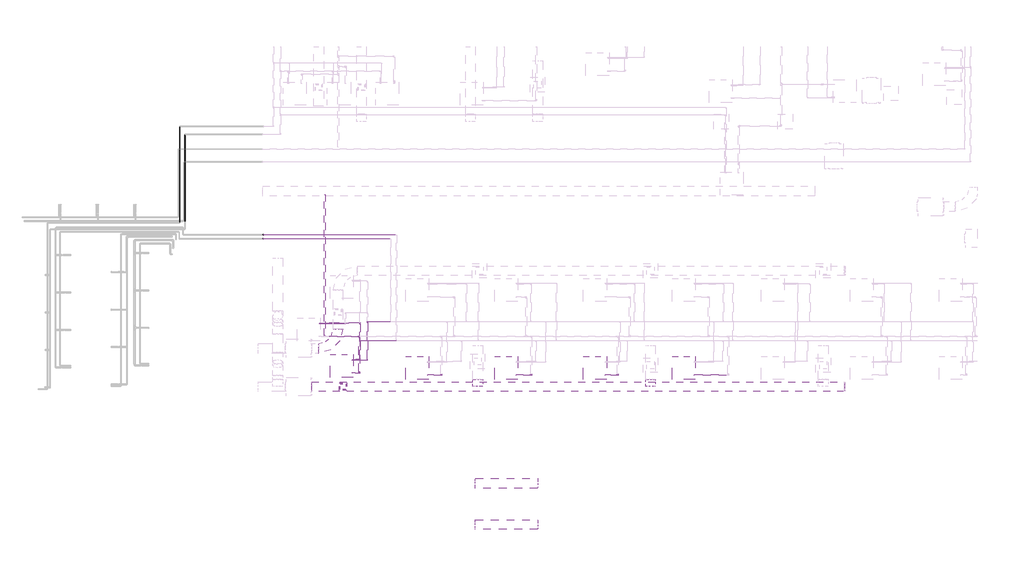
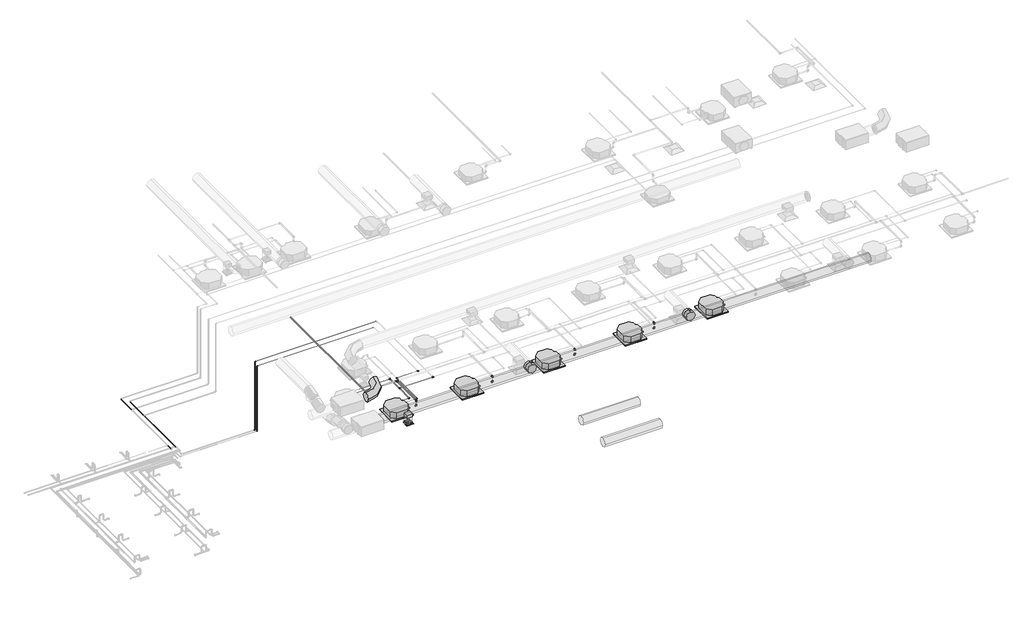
# One storey, part 6 of 22: 29 pipe fittings, 27 pipe segments, 5 proxies, 4 duct fittings, 4 duct segments, 1 air terminal.
"""IFC4 building model written with IfcOpenShell, lengths in millimetres."""

from ifc_helpers import new_model, si_unit, point, frame, frame_2d, origin, place, context, project, spatial, polyline, circle_curve, trimmed, segment, composite_curve, outline, extrude, transform, mapped, element, save
from components import sdq3535_a75e83f7, mechanical_equipment_53173f38, duct_fitting_570af4ff, duct_fitting_2eb95573, duct_fitting_2_d_33ab650d, pipe_fitting_062ba67a, pipe_fitting_144f4440, pipe_fitting_14eb6376, pipe_fitting_103655aa, pipe_fitting_d8987a17, pipe_fitting_753a0326, pipe_fitting_c900cfc2, pipe_fitting_0e110a5f, pipe_fitting_afe73776, pipe_fitting_09966660, pipe_fitting_501e5992, pipe_fitting_59d1f3e3, pipe_fitting_648138cd, pipe_fitting_da16c1b3, pipe_fitting_af483176, pipe_fitting_5a6d96d3

model = new_model("IFC4")

# Units and contexts
model_context = context("Model", 3, world=origin())
ifc_project = project(units=[si_unit("LENGTHUNIT", "METRE", prefix="MILLI")], contexts=[model_context])

# Site, building, storey
site = spatial("IfcSite", under=ifc_project)
building = spatial("IfcBuilding", under=site)
storey = spatial("IfcBuildingStorey", under=building, Name="Nível 2", Elevation=3880.0)

# Air terminal
placement = place(None, origin())
sdq3535_shape = sdq3535_a75e83f7(model_context)
element("IfcAirTerminal", 1, ObjectType="11 - Difusor Quadrado : SDQ3535", at=placement, inside=storey, context=model_context, shape_type="MappedRepresentation", body=[
    mapped(sdq3535_shape, transform((483.5312703, -8763.8997628, 6880.0), x_axis=(0.0, -1.0, 0.0), y_axis=(1.0, 0.0, 0.0), z_axis=(0.0, 0.0, 1.0))),
])

# Proxies
mechanical_equipment_shape = mechanical_equipment_53173f38(model_context)
element("IfcBuildingElementProxy", 2, Name="Midea_VRF_Indoor_4-way Cassette_MI-90(100,112,140)Q4_DHN1-D (2nd DC) : MI2-140Q4DHN1", ObjectType="Midea_VRF_Indoor_4-way Cassette_MI-90(100,112,140)Q4_DHN1-D (2nd DC) : MI2-140Q4DHN1", at=placement, inside=storey, context=model_context, shape_type="MappedRepresentation", body=[
    mapped(mechanical_equipment_shape, transform((434.0558808, -7921.9200274, 6880.0), x_axis=(1.0, 0.0, 0.0), y_axis=(0.0, 1.0, 0.0), z_axis=(0.0, 0.0, 1.0))),
])
element("IfcBuildingElementProxy", 3, Name="Midea_VRF_Indoor_4-way Cassette_MI-90(100,112,140)Q4_DHN1-D (2nd DC) : MI2-140Q4DHN1", ObjectType="Midea_VRF_Indoor_4-way Cassette_MI-90(100,112,140)Q4_DHN1-D (2nd DC) : MI2-140Q4DHN1", at=placement, inside=storey, context=model_context, shape_type="MappedRepresentation", body=[
    mapped(mechanical_equipment_shape, transform((14503.708361, -8001.9200274, 6880.0), x_axis=(1.0, 0.0, 0.0), y_axis=(0.0, 1.0, 0.0), z_axis=(0.0, 0.0, 1.0))),
])
element("IfcBuildingElementProxy", 4, Name="Midea_VRF_Indoor_4-way Cassette_MI-90(100,112,140)Q4_DHN1-D (2nd DC) : MI2-140Q4DHN1", ObjectType="Midea_VRF_Indoor_4-way Cassette_MI-90(100,112,140)Q4_DHN1-D (2nd DC) : MI2-140Q4DHN1", at=placement, inside=storey, context=model_context, shape_type="MappedRepresentation", body=[
    mapped(mechanical_equipment_shape, transform((10849.4883894, -8001.9200274, 6880.0), x_axis=(1.0, 0.0, 0.0), y_axis=(0.0, 1.0, 0.0), z_axis=(0.0, 0.0, 1.0))),
])
element("IfcBuildingElementProxy", 5, Name="Midea_VRF_Indoor_4-way Cassette_MI-90(100,112,140)Q4_DHN1-D (2nd DC) : MI2-140Q4DHN1", ObjectType="Midea_VRF_Indoor_4-way Cassette_MI-90(100,112,140)Q4_DHN1-D (2nd DC) : MI2-140Q4DHN1", at=placement, inside=storey, context=model_context, shape_type="MappedRepresentation", body=[
    mapped(mechanical_equipment_shape, transform((7195.2684179, -8001.9200274, 6880.0), x_axis=(1.0, 0.0, 0.0), y_axis=(0.0, 1.0, 0.0), z_axis=(0.0, 0.0, 1.0))),
])
element("IfcBuildingElementProxy", 6, Name="Midea_VRF_Indoor_4-way Cassette_MI-90(100,112,140)Q4_DHN1-D (2nd DC) : MI2-140Q4DHN1", ObjectType="Midea_VRF_Indoor_4-way Cassette_MI-90(100,112,140)Q4_DHN1-D (2nd DC) : MI2-140Q4DHN1", at=placement, inside=storey, context=model_context, shape_type="MappedRepresentation", body=[
    mapped(mechanical_equipment_shape, transform((3541.0484463, -8001.9200274, 6880.0), x_axis=(1.0, 0.0, 0.0), y_axis=(0.0, 1.0, 0.0), z_axis=(0.0, 0.0, 1.0))),
])

# Duct fittings
duct_fitting_shape = duct_fitting_570af4ff(model_context)
element("IfcDuctFitting", 7, ObjectType="M_Encaixe de duto retangular : Padrão", at=placement, inside=storey, context=model_context, shape_type="MappedRepresentation", body=[
    mapped(duct_fitting_shape, transform((483.5312703, -8763.8997628, 7301.0), x_axis=(0.0, 0.0, -1.0), y_axis=(-1.0, 0.0, 0.0), z_axis=(0.0, 1.0, 0.0))),
])
duct_fitting_2_shape = duct_fitting_2eb95573(model_context)
element("IfcDuctFitting", 8, ObjectType="M_Encaixe de duto redondo : Padrão", at=placement, inside=storey, context=model_context, shape_type="MappedRepresentation", body=[
    mapped(duct_fitting_2_shape, transform((6026.054533, -8563.8997628, 7501.0), x_axis=(0.0, 1.0, 0.0), y_axis=(1.0, 0.0, 0.0), z_axis=(0.0, 0.0, -1.0))),
])
element("IfcDuctFitting", 9, ObjectType="M_Encaixe de duto redondo : Padrão", at=placement, inside=storey, context=model_context, shape_type="MappedRepresentation", body=[
    mapped(duct_fitting_2_shape, transform((13129.4277224, -8563.8997628, 7501.0), x_axis=(0.0, 1.0, 0.0), y_axis=(1.0, 0.0, 0.0), z_axis=(0.0, 0.0, -1.0))),
])
duct_fitting_2_d_shape = duct_fitting_2_d_33ab650d(model_context)
element("IfcDuctFitting", 10, ObjectType="M_Cotovelo redondo : 2 D", at=placement, inside=storey, context=model_context, shape_type="MappedRepresentation", body=[
    mapped(duct_fitting_2_d_shape, transform((283.5312703, -7194.5831069, 7501.0), x_axis=(1.0, 0.0, 0.0), y_axis=(0.0, 1.0, 0.0), z_axis=(0.0, 0.0, 1.0))),
])

# Duct segments
element("IfcDuctSegment", 11, ObjectType="Torneiras / Raio curto", at=placement, inside=storey, context=model_context, shape_type="SweptSolid", body=[
    extrude(outline(composite_curve([segment(trimmed(circle_curve(frame_2d((-8763.8997628, 7501.0)), 200.0), [point((-8963.8997628, 7501.0))], [point((-8763.8997628, 7701.0))], False, "CARTESIAN"), True, "CONTINUOUS"), segment(trimmed(circle_curve(frame_2d((-8763.8997628, 7501.0)), 200.0), [point((-8763.8997628, 7701.0))], [point((-8563.8997628, 7501.0))], False, "CARTESIAN"), True, "CONTINUOUS"), segment(trimmed(circle_curve(frame_2d((-8763.8997628, 7501.0)), 200.0), [point((-8563.8997628, 7501.0))], [point((-8763.8997628, 7301.0))], False, "CARTESIAN"), True, "CONTINUOUS"), segment(trimmed(circle_curve(frame_2d((-8763.8997628, 7501.0)), 200.0), [point((-8763.8997628, 7301.0))], [point((-8963.8997628, 7501.0))], False, "CARTESIAN"), True, "CONTINUOUS")], self_intersect=False)), frame((-796.4687297, 0.0, 0.0), z_axis=(1.0, 0.0, 0.0), x_axis=(0.0, 1.0, 0.0)), (0.0, 0.0, 1.0), 21900.0),
])
element("IfcDuctSegment", 12, ObjectType="Raios cotovelos / torneiras", at=placement, inside=storey, context=model_context, shape_type="SweptSolid", body=[
    extrude(outline(polyline([(596.0312703, -8876.3997628), (371.0312703, -8876.3997628), (371.0312703, -8651.3997628), (596.0312703, -8651.3997628), (596.0312703, -8876.3997628)])), frame((0.0, 0.0, 6885.0), z_axis=(0.0, 0.0, 1.0), x_axis=(1.0, 0.0, 0.0)), (0.0, 0.0, 1.0), 314.4),
])
element("IfcDuctSegment", 13, ObjectType="Torneiras / Raio curto", at=placement, inside=storey, context=model_context, shape_type="SweptSolid", body=[
    extrude(outline(composite_curve([segment(trimmed(circle_curve(frame_2d((-12740.7801783, 7501.0)), 200.0), [point((-12940.7801783, 7501.0))], [point((-12740.7801783, 7701.0))], False, "CARTESIAN"), True, "CONTINUOUS"), segment(trimmed(circle_curve(frame_2d((-12740.7801783, 7501.0)), 200.0), [point((-12740.7801783, 7701.0))], [point((-12540.7801783, 7501.0))], False, "CARTESIAN"), True, "CONTINUOUS"), segment(trimmed(circle_curve(frame_2d((-12740.7801783, 7501.0)), 200.0), [point((-12540.7801783, 7501.0))], [point((-12740.7801783, 7301.0))], False, "CARTESIAN"), True, "CONTINUOUS"), segment(trimmed(circle_curve(frame_2d((-12740.7801783, 7501.0)), 200.0), [point((-12740.7801783, 7301.0))], [point((-12940.7801783, 7501.0))], False, "CARTESIAN"), True, "CONTINUOUS")], self_intersect=False)), frame((5931.6274727, 0.0, 0.0), z_axis=(1.0, 0.0, 0.0), x_axis=(0.0, 1.0, 0.0)), (0.0, 0.0, 1.0), 2558.4767162),
])
element("IfcDuctSegment", 14, ObjectType="Torneiras / Raio curto", at=placement, inside=storey, context=model_context, shape_type="SweptSolid", body=[
    extrude(outline(composite_curve([segment(trimmed(circle_curve(frame_2d((-14440.7801783, 7501.0)), 200.0), [point((-14640.7801783, 7501.0))], [point((-14440.7801783, 7701.0))], False, "CARTESIAN"), True, "CONTINUOUS"), segment(trimmed(circle_curve(frame_2d((-14440.7801783, 7501.0)), 200.0), [point((-14440.7801783, 7701.0))], [point((-14240.7801783, 7501.0))], False, "CARTESIAN"), True, "CONTINUOUS"), segment(trimmed(circle_curve(frame_2d((-14440.7801783, 7501.0)), 200.0), [point((-14240.7801783, 7501.0))], [point((-14440.7801783, 7301.0))], False, "CARTESIAN"), True, "CONTINUOUS"), segment(trimmed(circle_curve(frame_2d((-14440.7801783, 7501.0)), 200.0), [point((-14440.7801783, 7301.0))], [point((-14640.7801783, 7501.0))], False, "CARTESIAN"), True, "CONTINUOUS")], self_intersect=False)), frame((5931.6274727, 0.0, 0.0), z_axis=(1.0, 0.0, 0.0), x_axis=(0.0, 1.0, 0.0)), (0.0, 0.0, 1.0), 2558.4767162),
])

# Pipe fittings
pipe_fitting_shape = pipe_fitting_062ba67a(model_context)
element("IfcPipeFitting", 15, ObjectType="Cotovelo - PVC - CW : Padrão", at=placement, inside=storey, context=model_context, shape_type="MappedRepresentation", body=[
    mapped(pipe_fitting_shape, transform((11774.4883894, -8286.9200274, 7132.3), x_axis=(0.999999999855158, 0.0, -1.70201065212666e-05), y_axis=(1.70201065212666e-05, 0.0, 0.999999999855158), z_axis=(0.0, -1.0, 0.0))),
])
pipe_fitting_2_shape = pipe_fitting_144f4440(model_context)
element("IfcPipeFitting", 16, ObjectType="Cotovelo - PVC - CW : Padrão", at=placement, inside=storey, context=model_context, shape_type="MappedRepresentation", body=[
    mapped(pipe_fitting_2_shape, transform((4526.0484463, -8286.9200274, 7380.0), x_axis=(0.0, 0.0, 1.0), y_axis=(0.0, 1.0, 0.0), z_axis=(-1.0, 0.0, 0.0))),
])
element("IfcPipeFitting", 17, ObjectType="Cotovelo - PVC - CW : Padrão", at=placement, inside=storey, context=model_context, shape_type="MappedRepresentation", body=[
    mapped(pipe_fitting_2_shape, transform((8220.2684178, -8286.9200274, 7380.0), x_axis=(0.0, 0.0, 1.0), y_axis=(0.0, 1.0, 0.0), z_axis=(-1.0, 0.0, 0.0))),
])
element("IfcPipeFitting", 18, ObjectType="Cotovelo - PVC - CW : Padrão", at=placement, inside=storey, context=model_context, shape_type="MappedRepresentation", body=[
    mapped(pipe_fitting_2_shape, transform((11774.4883894, -8286.9200274, 7380.0), x_axis=(0.0, 0.0, 1.0), y_axis=(0.0, 1.0, 0.0), z_axis=(-1.0, 0.0, 0.0))),
])
element("IfcPipeFitting", 19, ObjectType="Cotovelo - PVC - CW : Padrão", at=placement, inside=storey, context=model_context, shape_type="MappedRepresentation", body=[
    mapped(pipe_fitting_2_shape, transform((1159.0558807, -8206.9200274, 7380.0), x_axis=(0.0, 0.0, 1.0), y_axis=(0.0, 1.0, 0.0), z_axis=(-1.0, 0.0, 0.0))),
])
pipe_fitting_3_shape = pipe_fitting_14eb6376(model_context)
element("IfcPipeFitting", 20, ObjectType="Tê de redução - PVC - CW : Padrão", at=placement, inside=storey, context=model_context, shape_type="MappedRepresentation", body=[
    mapped(pipe_fitting_3_shape, transform((1159.0558807, -6706.7007344, 7380.0), x_axis=(-1.0, 0.0, 0.0), y_axis=(0.0, 1.0, 0.0), z_axis=(0.0, 0.0, -1.0))),
])
pipe_fitting_4_shape = pipe_fitting_103655aa(model_context)
element("IfcPipeFitting", 21, ObjectType="Cotovelo - PVC - CW : Padrão", at=placement, inside=storey, context=model_context, shape_type="MappedRepresentation", body=[
    mapped(pipe_fitting_4_shape, transform((1159.0558807, -8206.9200274, 7132.3), x_axis=(0.9999999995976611, 0.0, -2.8366844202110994e-05), y_axis=(2.8366844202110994e-05, 0.0, 0.9999999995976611), z_axis=(0.0, -1.0, 0.0))),
])
pipe_fitting_5_shape = pipe_fitting_d8987a17(model_context)
element("IfcPipeFitting", 22, ObjectType="Cotovelo - PVC - CW : Padrão", at=placement, inside=storey, context=model_context, shape_type="MappedRepresentation", body=[
    mapped(pipe_fitting_5_shape, transform((4526.0484463, -8286.9200274, 7132.3), x_axis=(0.9999999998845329, 0.0, -1.5196523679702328e-05), y_axis=(1.5196523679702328e-05, 0.0, 0.9999999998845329), z_axis=(0.0, -1.0, 0.0))),
])
pipe_fitting_6_shape = pipe_fitting_753a0326(model_context)
element("IfcPipeFitting", 23, ObjectType="Cotovelo - PVC - CW : Padrão", at=placement, inside=storey, context=model_context, shape_type="MappedRepresentation", body=[
    mapped(pipe_fitting_6_shape, transform((8220.2684178, -8286.9200274, 7132.3), x_axis=(0.9999999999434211, 0.0, -1.063756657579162e-05), y_axis=(1.063756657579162e-05, 0.0, 0.9999999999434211), z_axis=(0.0, -1.0, 0.0))),
])
pipe_fitting_7_shape = pipe_fitting_c900cfc2(model_context)
element("IfcPipeFitting", 24, ObjectType="Bucha de redução reta - Soldada - CU : Padrão", at=placement, inside=storey, context=model_context, shape_type="MappedRepresentation", body=[
    mapped(pipe_fitting_7_shape, transform((3966.0484463, -7728.7092137, 7132.3085101), x_axis=(1.0, 0.0, 0.0), y_axis=(0.0, 1.0, 0.0), z_axis=(0.0, 0.0, 1.0))),
])
pipe_fitting_8_shape = pipe_fitting_0e110a5f(model_context)
element("IfcPipeFitting", 25, ObjectType="Cotovelo - Soldado - CU : Padrão", at=placement, inside=storey, context=model_context, shape_type="MappedRepresentation", body=[
    mapped(pipe_fitting_8_shape, transform((1179.0558808, -7648.7092137, 7132.3085101), x_axis=(1.0, 0.0, 0.0), y_axis=(0.0, 1.0, 0.0), z_axis=(0.0, 0.0, 1.0))),
])
element("IfcPipeFitting", 26, ObjectType="Cotovelo - Soldado - CU : Padrão", at=placement, inside=storey, context=model_context, shape_type="MappedRepresentation", body=[
    mapped(pipe_fitting_8_shape, transform((-2783.851436, -2518.4426922, 7132.3), x_axis=(-1.0, 0.0, 0.0), y_axis=(0.0, 0.0, -1.0), z_axis=(0.0, -1.0, 0.0))),
])
element("IfcPipeFitting", 27, ObjectType="Cotovelo - Soldado - CU : Padrão", at=placement, inside=storey, context=model_context, shape_type="MappedRepresentation", body=[
    mapped(pipe_fitting_8_shape, transform((-2783.851436, -2518.4426922, 3918.9), x_axis=(0.0, 0.0, -1.0), y_axis=(-1.0, 0.0, 0.0), z_axis=(0.0, 1.0, 0.0))),
])
pipe_fitting_9_shape = pipe_fitting_afe73776(model_context)
element("IfcPipeFitting", 28, ObjectType="Bucha de redução reta - Soldada - CU : Padrão", at=placement, inside=storey, context=model_context, shape_type="MappedRepresentation", body=[
    mapped(pipe_fitting_9_shape, transform((1147.5968808, -7648.7092137, 7132.3085101), x_axis=(-1.0, 0.0, 0.0), y_axis=(0.0, -1.0, 0.0), z_axis=(0.0, 0.0, 1.0))),
])
element("IfcPipeFitting", 29, ObjectType="Bucha de redução reta - Soldada - CU : Padrão", at=placement, inside=storey, context=model_context, shape_type="MappedRepresentation", body=[
    mapped(pipe_fitting_9_shape, transform((1148.8953808, -6148.4899207, 7132.3009574), x_axis=(-1.0, 0.0, 0.0), y_axis=(0.0, -1.0, 0.0), z_axis=(0.0, 0.0, 1.0))),
])
pipe_fitting_10_shape = pipe_fitting_09966660(model_context)
element("IfcPipeFitting", 30, ObjectType="Tê - Soldado - CU : Padrão", at=placement, inside=storey, context=model_context, shape_type="MappedRepresentation", body=[
    mapped(pipe_fitting_10_shape, transform((1179.0558808, -6148.4899207, 7132.3009574), x_axis=(0.0, -1.0, 0.0), y_axis=(1.0, 0.0, 0.0), z_axis=(0.0, 0.0, 1.0))),
])
element("IfcPipeFitting", 31, ObjectType="Tê - Soldado - CU : Padrão", at=placement, inside=storey, context=model_context, shape_type="MappedRepresentation", body=[
    mapped(pipe_fitting_10_shape, transform((1179.0558808, -6867.9676922, 7132.3085101), x_axis=(0.0, -1.0, 0.0), y_axis=(-1.0, 0.0, 0.0), z_axis=(0.0, 0.0, -1.0))),
])
element("IfcPipeFitting", 32, ObjectType="Tê - Soldado - CU : Padrão", at=placement, inside=storey, context=model_context, shape_type="MappedRepresentation", body=[
    mapped(pipe_fitting_10_shape, transform((2684.689564, -6867.9676922, 7132.3085101), x_axis=(1.0, 0.0, 0.0), y_axis=(0.0, -1.0, 0.0), z_axis=(0.0, 0.0, -1.0))),
])
pipe_fitting_11_shape = pipe_fitting_501e5992(model_context)
element("IfcPipeFitting", 33, ObjectType="Bucha de redução reta - Soldada - CU : Padrão", at=placement, inside=storey, context=model_context, shape_type="MappedRepresentation", body=[
    mapped(pipe_fitting_11_shape, transform((871.7147808, -7648.7092137, 7132.3085101), x_axis=(-1.0, 0.0, 0.0), y_axis=(0.0, -1.0, 0.0), z_axis=(0.0, 0.0, 1.0))),
])
pipe_fitting_12_shape = pipe_fitting_59d1f3e3(model_context)
element("IfcPipeFitting", 34, ObjectType="Bucha de redução reta - Soldada - CU : Padrão", at=placement, inside=storey, context=model_context, shape_type="MappedRepresentation", body=[
    mapped(pipe_fitting_12_shape, transform((859.0558808, -7682.5116556, 7026.8446487), x_axis=(1.0, 0.0, 0.0), y_axis=(0.0, 1.0, 0.0), z_axis=(0.0, 0.0, 1.0))),
])
element("IfcPipeFitting", 35, ObjectType="Bucha de redução reta - Soldada - CU : Padrão", at=placement, inside=storey, context=model_context, shape_type="MappedRepresentation", body=[
    mapped(pipe_fitting_12_shape, transform((3966.0484463, -7762.5116556, 7026.8446487), x_axis=(1.0, 0.0, 0.0), y_axis=(0.0, 1.0, 0.0), z_axis=(0.0, 0.0, 1.0))),
])
pipe_fitting_13_shape = pipe_fitting_648138cd(model_context)
element("IfcPipeFitting", 36, ObjectType="Cotovelo - Soldado - CU : Padrão", at=placement, inside=storey, context=model_context, shape_type="MappedRepresentation", body=[
    mapped(pipe_fitting_13_shape, transform((1499.0558808, -7682.5116556, 7026.8446487), x_axis=(1.0, 0.0, 0.0), y_axis=(0.0, 1.0, 0.0), z_axis=(0.0, 0.0, 1.0))),
])
element("IfcPipeFitting", 37, ObjectType="Cotovelo - Soldado - CU : Padrão", at=placement, inside=storey, context=model_context, shape_type="MappedRepresentation", body=[
    mapped(pipe_fitting_13_shape, transform((-2788.5686302, -2684.7491488, 7026.8446487), x_axis=(-1.0, 0.0, 0.0), y_axis=(0.0, 0.0, -1.0), z_axis=(0.0, -1.0, 0.0))),
])
element("IfcPipeFitting", 38, ObjectType="Cotovelo - Soldado - CU : Padrão", at=placement, inside=storey, context=model_context, shape_type="MappedRepresentation", body=[
    mapped(pipe_fitting_13_shape, transform((-2788.5686302, -2684.7491488, 3954.6), x_axis=(0.0, 0.0, -1.0), y_axis=(-1.0, 0.0, 0.0), z_axis=(0.0, 1.0, 0.0))),
])
element("IfcPipeFitting", 39, ObjectType="Cotovelo - Soldado - CU : Padrão", at=placement, inside=storey, context=model_context, shape_type="MappedRepresentation", body=[
    mapped(pipe_fitting_13_shape, transform((587.3614553, -6182.2923626, 7026.8370961), x_axis=(1.0, 0.0, 0.0), y_axis=(0.0, 1.0, 0.0), z_axis=(0.0, 0.0, 1.0))),
])
pipe_fitting_14_shape = pipe_fitting_da16c1b3(model_context)
element("IfcPipeFitting", 40, ObjectType="Tê - Soldado - CU : Padrão", at=placement, inside=storey, context=model_context, shape_type="MappedRepresentation", body=[
    mapped(pipe_fitting_14_shape, transform((1499.0558808, -6091.0991488, 7026.8446487), x_axis=(0.0, -1.0, 0.0), y_axis=(-1.0, 0.0, 0.0), z_axis=(0.0, 0.0, -1.0))),
])
element("IfcPipeFitting", 41, ObjectType="Tê - Soldado - CU : Padrão", at=placement, inside=storey, context=model_context, shape_type="MappedRepresentation", body=[
    mapped(pipe_fitting_14_shape, transform((2451.4313698, -6091.0991488, 7026.8446487), x_axis=(-1.0, 0.0, 0.0), y_axis=(0.0, -1.0, 0.0), z_axis=(0.0, 0.0, 1.0))),
])
pipe_fitting_15_shape = pipe_fitting_af483176(model_context)
element("IfcPipeFitting", 42, ObjectType="Bucha de redução reta - Soldada - CU : Padrão", at=placement, inside=storey, context=model_context, shape_type="MappedRepresentation", body=[
    mapped(pipe_fitting_15_shape, transform((1499.0558808, -7658.4860556, 7026.8446487), x_axis=(0.0, 1.0, 0.0), y_axis=(-1.0, 0.0, 0.0), z_axis=(0.0, 0.0, 1.0))),
])
pipe_fitting_16_shape = pipe_fitting_5a6d96d3(model_context)
element("IfcPipeFitting", 43, ObjectType="Bucha de redução reta - Soldada - CU : Padrão", at=placement, inside=storey, context=model_context, shape_type="MappedRepresentation", body=[
    mapped(pipe_fitting_16_shape, transform((2451.4313698, -6066.0821488, 7026.8446487), x_axis=(0.0, 1.0, 0.0), y_axis=(-1.0, 0.0, 0.0), z_axis=(0.0, 0.0, 1.0))),
])

# Pipe segments
element("IfcPipeSegment", 44, ObjectType="Tubos de cobre HVAC", at=placement, inside=storey, context=model_context, shape_type="SweptSolid", body=[
    extrude(outline(composite_curve([segment(trimmed(circle_curve(frame_2d((-6148.4899207, 7132.3009574)), 7.935), [point((-6156.4249207, 7132.3009574))], [point((-6148.4899207, 7140.2359574))], False, "CARTESIAN"), True, "CONTINUOUS"), segment(trimmed(circle_curve(frame_2d((-6148.4899207, 7132.3009574)), 7.935), [point((-6148.4899207, 7140.2359574))], [point((-6140.5549207, 7132.3009574))], False, "CARTESIAN"), True, "CONTINUOUS"), segment(trimmed(circle_curve(frame_2d((-6148.4899207, 7132.3009574)), 7.935), [point((-6140.5549207, 7132.3009574))], [point((-6148.4899207, 7124.3659574))], False, "CARTESIAN"), True, "CONTINUOUS"), segment(trimmed(circle_curve(frame_2d((-6148.4899207, 7132.3009574)), 7.935), [point((-6148.4899207, 7124.3659574))], [point((-6156.4249207, 7132.3009574))], False, "CARTESIAN"), True, "CONTINUOUS")], self_intersect=False)), frame((-479.9796447, 0.0, 0.0), z_axis=(1.0, 0.0, 0.0), x_axis=(0.0, 1.0, 0.0)), (0.0, 0.0, 1.0), 1616.2161255),
])
element("IfcPipeSegment", 45, ObjectType="Tubos de cobre HVAC", at=placement, inside=storey, context=model_context, shape_type="SweptSolid", body=[
    extrude(outline(composite_curve([segment(trimmed(circle_curve(frame_2d((-7648.7092137, 7132.3085101)), 7.935), [point((-7656.6442137, 7132.3085101))], [point((-7648.7092137, 7140.2435101))], False, "CARTESIAN"), True, "CONTINUOUS"), segment(trimmed(circle_curve(frame_2d((-7648.7092137, 7132.3085101)), 7.935), [point((-7648.7092137, 7140.2435101))], [point((-7640.7742137, 7132.3085101))], False, "CARTESIAN"), True, "CONTINUOUS"), segment(trimmed(circle_curve(frame_2d((-7648.7092137, 7132.3085101)), 7.935), [point((-7640.7742137, 7132.3085101))], [point((-7648.7092137, 7124.3735101))], False, "CARTESIAN"), True, "CONTINUOUS"), segment(trimmed(circle_curve(frame_2d((-7648.7092137, 7132.3085101)), 7.935), [point((-7648.7092137, 7124.3735101))], [point((-7656.6442137, 7132.3085101))], False, "CARTESIAN"), True, "CONTINUOUS")], self_intersect=False)), frame((871.7147808, 0.0, 0.0), z_axis=(1.0, 0.0, 0.0), x_axis=(0.0, 1.0, 0.0)), (0.0, 0.0, 1.0), 263.2232),
])
element("IfcPipeSegment", 46, ObjectType="Tubos de cobre HVAC", at=placement, inside=storey, context=model_context, shape_type="SweptSolid", body=[
    extrude(outline(composite_curve([segment(trimmed(circle_curve(frame_2d((0.0, -9.525)), 9.525), [point((0.0, -19.05))], [point((-9.525, -9.525))], False, "CARTESIAN"), True, "CONTINUOUS"), segment(trimmed(circle_curve(frame_2d((0.0, -9.525)), 9.525), [point((-9.525, -9.525))], [point((0.0, 0.0))], False, "CARTESIAN"), True, "CONTINUOUS"), segment(trimmed(circle_curve(frame_2d((0.0, -9.525)), 9.525), [point((0.0, 0.0))], [point((9.525, -9.525))], False, "CARTESIAN"), True, "CONTINUOUS"), segment(trimmed(circle_curve(frame_2d((0.0, -9.525)), 9.525), [point((9.525, -9.525))], [point((0.0, -19.05))], False, "CARTESIAN"), True, "CONTINUOUS")], self_intersect=False)), frame((1169.5308808, -6178.6851707, 7132.3009574), z_axis=(0.0, -0.9999999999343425, 1.1459274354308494e-05), x_axis=(0.0, 1.1459274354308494e-05, 0.9999999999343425)), (0.0, 0.0, 1.0), 659.0872715),
])
element("IfcPipeSegment", 47, ObjectType="Tubos de cobre HVAC", at=placement, inside=storey, context=model_context, shape_type="SweptSolid", body=[
    extrude(outline(composite_curve([segment(trimmed(circle_curve(frame_2d((-6867.9676922, 7132.3085101)), 9.525), [point((-6858.4426922, 7132.3085101))], [point((-6867.9676922, 7122.7835101))], False, "CARTESIAN"), True, "CONTINUOUS"), segment(trimmed(circle_curve(frame_2d((-6867.9676922, 7132.3085101)), 9.525), [point((-6867.9676922, 7122.7835101))], [point((-6877.4926922, 7132.3085101))], False, "CARTESIAN"), True, "CONTINUOUS"), segment(trimmed(circle_curve(frame_2d((-6867.9676922, 7132.3085101)), 9.525), [point((-6877.4926922, 7132.3085101))], [point((-6867.9676922, 7141.8335101))], False, "CARTESIAN"), True, "CONTINUOUS"), segment(trimmed(circle_curve(frame_2d((-6867.9676922, 7132.3085101)), 9.525), [point((-6867.9676922, 7141.8335101))], [point((-6858.4426922, 7132.3085101))], False, "CARTESIAN"), True, "CONTINUOUS")], self_intersect=False)), frame((1209.2163808, 0.0, 0.0), z_axis=(1.0, 0.0, 0.0), x_axis=(0.0, 1.0, 0.0)), (0.0, 0.0, 1.0), 1445.2779332),
])
element("IfcPipeSegment", 48, ObjectType="Tubos de cobre HVAC", at=placement, inside=storey, context=model_context, shape_type="SweptSolid", body=[
    extrude(outline(composite_curve([segment(trimmed(circle_curve(frame_2d((7132.3085101, 1179.0558808)), 9.525), [point((7132.3085101, 1188.5808808))], [point((7141.8335101, 1179.0558808))], False, "CARTESIAN"), True, "CONTINUOUS"), segment(trimmed(circle_curve(frame_2d((7132.3085101, 1179.0558808)), 9.525), [point((7141.8335101, 1179.0558808))], [point((7132.3085101, 1169.5308808))], False, "CARTESIAN"), True, "CONTINUOUS"), segment(trimmed(circle_curve(frame_2d((7132.3085101, 1179.0558808)), 9.525), [point((7132.3085101, 1169.5308808))], [point((7122.7835101, 1179.0558808))], False, "CARTESIAN"), True, "CONTINUOUS"), segment(trimmed(circle_curve(frame_2d((7132.3085101, 1179.0558808)), 9.525), [point((7122.7835101, 1179.0558808))], [point((7132.3085101, 1188.5808808))], False, "CARTESIAN"), True, "CONTINUOUS")], self_intersect=False)), frame((0.0, -7617.2502137, 0.0), z_axis=(0.0, 1.0, 0.0), x_axis=(0.0, 0.0, 1.0)), (0.0, 0.0, 1.0), 719.0872715),
])
element("IfcPipeSegment", 49, ObjectType="Tubos de cobre HVAC", at=placement, inside=storey, context=model_context, shape_type="SweptSolid", body=[
    extrude(outline(composite_curve([segment(trimmed(circle_curve(frame_2d((-2518.4426922, 7132.3)), 9.525), [point((-2508.9176922, 7132.3))], [point((-2518.4426922, 7122.775))], False, "CARTESIAN"), True, "CONTINUOUS"), segment(trimmed(circle_curve(frame_2d((-2518.4426922, 7132.3)), 9.525), [point((-2518.4426922, 7122.775))], [point((-2527.9676922, 7132.3))], False, "CARTESIAN"), True, "CONTINUOUS"), segment(trimmed(circle_curve(frame_2d((-2518.4426922, 7132.3)), 9.525), [point((-2527.9676922, 7132.3))], [point((-2518.4426922, 7141.825))], False, "CARTESIAN"), True, "CONTINUOUS"), segment(trimmed(circle_curve(frame_2d((-2518.4426922, 7132.3)), 9.525), [point((-2518.4426922, 7141.825))], [point((-2508.9176922, 7132.3))], False, "CARTESIAN"), True, "CONTINUOUS")], self_intersect=False)), frame((-2752.392436, 0.0, 0.0), z_axis=(1.0, 0.0, 0.0), x_axis=(0.0, 1.0, 0.0)), (0.0, 0.0, 1.0), 5405.623),
])
element("IfcPipeSegment", 50, ObjectType="Tubos de cobre HVAC", at=placement, inside=storey, context=model_context, shape_type="SweptSolid", body=[
    extrude(outline(composite_curve([segment(trimmed(circle_curve(frame_2d((-2783.851436, -2518.4426922)), 9.525), [point((-2774.326436, -2518.4426922))], [point((-2783.851436, -2527.9676922))], False, "CARTESIAN"), True, "CONTINUOUS"), segment(trimmed(circle_curve(frame_2d((-2783.851436, -2518.4426922)), 9.525), [point((-2783.851436, -2527.9676922))], [point((-2793.376436, -2518.4426922))], False, "CARTESIAN"), True, "CONTINUOUS"), segment(trimmed(circle_curve(frame_2d((-2783.851436, -2518.4426922)), 9.525), [point((-2793.376436, -2518.4426922))], [point((-2783.851436, -2508.9176922))], False, "CARTESIAN"), True, "CONTINUOUS"), segment(trimmed(circle_curve(frame_2d((-2783.851436, -2518.4426922)), 9.525), [point((-2783.851436, -2508.9176922))], [point((-2774.326436, -2518.4426922))], False, "CARTESIAN"), True, "CONTINUOUS")], self_intersect=False)), frame((0.0, 0.0, 3950.359), z_axis=(0.0, 0.0, 1.0), x_axis=(1.0, 0.0, 0.0)), (0.0, 0.0, 1.0), 3150.482),
])
element("IfcPipeSegment", 51, ObjectType="Tubos de cobre HVAC", at=placement, inside=storey, context=model_context, shape_type="SweptSolid", body=[
    extrude(outline(composite_curve([segment(trimmed(circle_curve(frame_2d((-7682.5116556, 7026.8446487)), 4.76), [point((-7687.2716556, 7026.8446487))], [point((-7682.5116556, 7031.6046487))], False, "CARTESIAN"), True, "CONTINUOUS"), segment(trimmed(circle_curve(frame_2d((-7682.5116556, 7026.8446487)), 4.76), [point((-7682.5116556, 7031.6046487))], [point((-7677.7516556, 7026.8446487))], False, "CARTESIAN"), True, "CONTINUOUS"), segment(trimmed(circle_curve(frame_2d((-7682.5116556, 7026.8446487)), 4.76), [point((-7677.7516556, 7026.8446487))], [point((-7682.5116556, 7022.0846487))], False, "CARTESIAN"), True, "CONTINUOUS"), segment(trimmed(circle_curve(frame_2d((-7682.5116556, 7026.8446487)), 4.76), [point((-7682.5116556, 7022.0846487))], [point((-7687.2716556, 7026.8446487))], False, "CARTESIAN"), True, "CONTINUOUS")], self_intersect=False)), frame((868.7302808, 0.0, 0.0), z_axis=(1.0, 0.0, 0.0), x_axis=(0.0, 1.0, 0.0)), (0.0, 0.0, 1.0), 606.3),
])
element("IfcPipeSegment", 52, ObjectType="Tubos de cobre HVAC", at=placement, inside=storey, context=model_context, shape_type="SweptSolid", body=[
    extrude(outline(composite_curve([segment(trimmed(circle_curve(frame_2d((7026.8446487, 1499.0558808)), 6.35), [point((7026.8446487, 1505.4058808))], [point((7033.1946487, 1499.0558808))], False, "CARTESIAN"), True, "CONTINUOUS"), segment(trimmed(circle_curve(frame_2d((7026.8446487, 1499.0558808)), 6.35), [point((7033.1946487, 1499.0558808))], [point((7026.8446487, 1492.7058808))], False, "CARTESIAN"), True, "CONTINUOUS"), segment(trimmed(circle_curve(frame_2d((7026.8446487, 1499.0558808)), 6.35), [point((7026.8446487, 1492.7058808))], [point((7020.4946487, 1499.0558808))], False, "CARTESIAN"), True, "CONTINUOUS"), segment(trimmed(circle_curve(frame_2d((7026.8446487, 1499.0558808)), 6.35), [point((7020.4946487, 1499.0558808))], [point((7026.8446487, 1505.4058808))], False, "CARTESIAN"), True, "CONTINUOUS")], self_intersect=False)), frame((0.0, -7648.8116556, 0.0), z_axis=(0.0, 1.0, 0.0), x_axis=(0.0, 0.0, 1.0)), (0.0, 0.0, 1.0), 1532.6290068),
])
element("IfcPipeSegment", 53, ObjectType="Tubos de cobre HVAC", at=placement, inside=storey, context=model_context, shape_type="SweptSolid", body=[
    extrude(outline(composite_curve([segment(trimmed(circle_curve(frame_2d((-6091.0991488, 7026.8446487)), 6.35), [point((-6097.4491488, 7026.8446487))], [point((-6091.0991488, 7033.1946487))], False, "CARTESIAN"), True, "CONTINUOUS"), segment(trimmed(circle_curve(frame_2d((-6091.0991488, 7026.8446487)), 6.35), [point((-6091.0991488, 7033.1946487))], [point((-6084.7491488, 7026.8446487))], False, "CARTESIAN"), True, "CONTINUOUS"), segment(trimmed(circle_curve(frame_2d((-6091.0991488, 7026.8446487)), 6.35), [point((-6084.7491488, 7026.8446487))], [point((-6091.0991488, 7020.4946487))], False, "CARTESIAN"), True, "CONTINUOUS"), segment(trimmed(circle_curve(frame_2d((-6091.0991488, 7026.8446487)), 6.35), [point((-6091.0991488, 7020.4946487))], [point((-6097.4491488, 7026.8446487))], False, "CARTESIAN"), True, "CONTINUOUS")], self_intersect=False)), frame((1524.0728808, 0.0, 0.0), z_axis=(1.0, 0.0, 0.0), x_axis=(0.0, 1.0, 0.0)), (0.0, 0.0, 1.0), 902.274989),
])
element("IfcPipeSegment", 54, ObjectType="Tubos de cobre HVAC", at=placement, inside=storey, context=model_context, shape_type="SweptSolid", body=[
    extrude(outline(composite_curve([segment(trimmed(circle_curve(frame_2d((-2684.7491488, 7026.8446487)), 4.76), [point((-2679.9891488, 7026.8446487))], [point((-2684.7491488, 7022.0846487))], False, "CARTESIAN"), True, "CONTINUOUS"), segment(trimmed(circle_curve(frame_2d((-2684.7491488, 7026.8446487)), 4.76), [point((-2684.7491488, 7022.0846487))], [point((-2689.5091488, 7026.8446487))], False, "CARTESIAN"), True, "CONTINUOUS"), segment(trimmed(circle_curve(frame_2d((-2684.7491488, 7026.8446487)), 4.76), [point((-2689.5091488, 7026.8446487))], [point((-2684.7491488, 7031.6046487))], False, "CARTESIAN"), True, "CONTINUOUS"), segment(trimmed(circle_curve(frame_2d((-2684.7491488, 7026.8446487)), 4.76), [point((-2684.7491488, 7031.6046487))], [point((-2679.9891488, 7026.8446487))], False, "CARTESIAN"), True, "CONTINUOUS")], self_intersect=False)), frame((-2764.5430302, 0.0, 0.0), z_axis=(1.0, 0.0, 0.0), x_axis=(0.0, 1.0, 0.0)), (0.0, 0.0, 1.0), 5191.9488),
])
element("IfcPipeSegment", 55, ObjectType="Tubos de cobre HVAC", at=placement, inside=storey, context=model_context, shape_type="SweptSolid", body=[
    extrude(outline(composite_curve([segment(trimmed(circle_curve(frame_2d((-2788.5686302, -2684.7491488)), 4.76), [point((-2783.8086302, -2684.7491488))], [point((-2788.5686302, -2689.5091488))], False, "CARTESIAN"), True, "CONTINUOUS"), segment(trimmed(circle_curve(frame_2d((-2788.5686302, -2684.7491488)), 4.76), [point((-2788.5686302, -2689.5091488))], [point((-2793.3286302, -2684.7491488))], False, "CARTESIAN"), True, "CONTINUOUS"), segment(trimmed(circle_curve(frame_2d((-2788.5686302, -2684.7491488)), 4.76), [point((-2793.3286302, -2684.7491488))], [point((-2788.5686302, -2679.9891488))], False, "CARTESIAN"), True, "CONTINUOUS"), segment(trimmed(circle_curve(frame_2d((-2788.5686302, -2684.7491488)), 4.76), [point((-2788.5686302, -2679.9891488))], [point((-2783.8086302, -2684.7491488))], False, "CARTESIAN"), True, "CONTINUOUS")], self_intersect=False)), frame((0.0, 0.0, 3978.6256), z_axis=(0.0, 0.0, 1.0), x_axis=(1.0, 0.0, 0.0)), (0.0, 0.0, 1.0), 3024.1934487),
])
element("IfcPipeSegment", 56, ObjectType="Tubos de cobre HVAC", at=placement, inside=storey, context=model_context, shape_type="SweptSolid", body=[
    extrude(outline(composite_curve([segment(trimmed(circle_curve(frame_2d((3880.0, -6008.3914151)), 9.525), [point((3880.0, -6017.9164151))], [point((3870.475, -6008.3914151))], False, "CARTESIAN"), True, "CONTINUOUS"), segment(trimmed(circle_curve(frame_2d((3880.0, -6008.3914151)), 9.525), [point((3870.475, -6008.3914151))], [point((3880.0, -5998.8664151))], False, "CARTESIAN"), True, "CONTINUOUS"), segment(trimmed(circle_curve(frame_2d((3880.0, -6008.3914151)), 9.525), [point((3880.0, -5998.8664151))], [point((3889.525, -6008.3914151))], False, "CARTESIAN"), True, "CONTINUOUS"), segment(trimmed(circle_curve(frame_2d((3880.0, -6008.3914151)), 9.525), [point((3889.525, -6008.3914151))], [point((3880.0, -6017.9164151))], False, "CARTESIAN"), True, "CONTINUOUS")], self_intersect=False)), frame((0.0, -1966.3480293, 0.0), z_axis=(0.0, 1.0, 0.0), x_axis=(0.0, 0.0, 1.0)), (0.0, 0.0, 1.0), 3554.9214993),
])
element("IfcPipeSegment", 57, ObjectType="Tubos de cobre HVAC", at=placement, inside=storey, context=model_context, shape_type="SweptSolid", body=[
    extrude(outline(composite_curve([segment(trimmed(circle_curve(frame_2d((3880.0, -6224.6914695)), 6.35), [point((3880.0, -6231.0414695))], [point((3873.65, -6224.6914695))], False, "CARTESIAN"), True, "CONTINUOUS"), segment(trimmed(circle_curve(frame_2d((3880.0, -6224.6914695)), 6.35), [point((3873.65, -6224.6914695))], [point((3880.0, -6218.3414695))], False, "CARTESIAN"), True, "CONTINUOUS"), segment(trimmed(circle_curve(frame_2d((3880.0, -6224.6914695)), 6.35), [point((3880.0, -6218.3414695))], [point((3886.35, -6224.6914695))], False, "CARTESIAN"), True, "CONTINUOUS"), segment(trimmed(circle_curve(frame_2d((3880.0, -6224.6914695)), 6.35), [point((3886.35, -6224.6914695))], [point((3880.0, -6231.0414695))], False, "CARTESIAN"), True, "CONTINUOUS")], self_intersect=False)), frame((0.0, -2000.4058218, 0.0), z_axis=(0.0, 1.0, 0.0), x_axis=(0.0, 0.0, 1.0)), (0.0, 0.0, 1.0), 3916.9783371),
])
element("IfcPipeSegment", 58, ObjectType="Tubos de cobre HVAC", at=placement, inside=storey, context=model_context, shape_type="SweptSolid", body=[
    extrude(outline(composite_curve([segment(trimmed(circle_curve(frame_2d((-6182.2923626, 7026.8370961)), 4.76), [point((-6187.0523626, 7026.8370961))], [point((-6182.2923626, 7031.5970961))], False, "CARTESIAN"), True, "CONTINUOUS"), segment(trimmed(circle_curve(frame_2d((-6182.2923626, 7026.8370961)), 4.76), [point((-6182.2923626, 7031.5970961))], [point((-6177.5323626, 7026.8370961))], False, "CARTESIAN"), True, "CONTINUOUS"), segment(trimmed(circle_curve(frame_2d((-6182.2923626, 7026.8370961)), 4.76), [point((-6177.5323626, 7026.8370961))], [point((-6182.2923626, 7022.0770961))], False, "CARTESIAN"), True, "CONTINUOUS"), segment(trimmed(circle_curve(frame_2d((-6182.2923626, 7026.8370961)), 4.76), [point((-6182.2923626, 7022.0770961))], [point((-6187.0523626, 7026.8370961))], False, "CARTESIAN"), True, "CONTINUOUS")], self_intersect=False)), frame((-482.9641447, 0.0, 0.0), z_axis=(1.0, 0.0, 0.0), x_axis=(0.0, 1.0, 0.0)), (0.0, 0.0, 1.0), 1046.3),
])
element("IfcPipeSegment", 59, ObjectType="Plástico", at=placement, inside=storey, context=model_context, shape_type="SweptSolid", body=[
    extrude(outline(composite_curve([segment(trimmed(circle_curve(frame_2d((0.0, -19.9999999)), 20.0), [point((-20.0, -19.9999999))], [point((0.0, 0.0))], False, "CARTESIAN"), True, "CONTINUOUS"), segment(trimmed(circle_curve(frame_2d((0.0, -19.9999999)), 20.0), [point((0.0, 0.0))], [point((20.0, -19.9999999))], False, "CARTESIAN"), True, "CONTINUOUS"), segment(trimmed(circle_curve(frame_2d((0.0, -19.9999999)), 20.0), [point((20.0, -19.9999999))], [point((0.0, -39.9999999))], False, "CARTESIAN"), True, "CONTINUOUS"), segment(trimmed(circle_curve(frame_2d((0.0, -19.9999999)), 20.0), [point((0.0, -39.9999999))], [point((-20.0, -19.9999999))], False, "CARTESIAN"), True, "CONTINUOUS")], self_intersect=False)), frame((4481.0477928, -8286.9200274, 7112.3006839), z_axis=(-0.9999999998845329, 0.0, 1.519652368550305e-05), x_axis=(0.0, 1.0, 0.0)), (0.0, 0.0, 1.0), 514.9996505),
])
element("IfcPipeSegment", 60, ObjectType="Plástico", at=placement, inside=storey, context=model_context, shape_type="SweptSolid", body=[
    extrude(outline(composite_curve([segment(trimmed(circle_curve(frame_2d((4526.0484463, -8286.9200274)), 20.0), [point((4546.0484463, -8286.9200274))], [point((4526.0484463, -8306.9200274))], False, "CARTESIAN"), True, "CONTINUOUS"), segment(trimmed(circle_curve(frame_2d((4526.0484463, -8286.9200274)), 20.0), [point((4526.0484463, -8306.9200274))], [point((4506.0484463, -8286.9200274))], False, "CARTESIAN"), True, "CONTINUOUS"), segment(trimmed(circle_curve(frame_2d((4526.0484463, -8286.9200274)), 20.0), [point((4506.0484463, -8286.9200274))], [point((4526.0484463, -8266.9200274))], False, "CARTESIAN"), True, "CONTINUOUS"), segment(trimmed(circle_curve(frame_2d((4526.0484463, -8286.9200274)), 20.0), [point((4526.0484463, -8266.9200274))], [point((4546.0484463, -8286.9200274))], False, "CARTESIAN"), True, "CONTINUOUS")], self_intersect=False)), frame((0.0, 0.0, 7177.3003495), z_axis=(0.0, 0.0, 1.0), x_axis=(1.0, 0.0, 0.0)), (0.0, 0.0, 1.0), 157.6996505),
])
element("IfcPipeSegment", 61, ObjectType="Plástico", at=placement, inside=storey, context=model_context, shape_type="SweptSolid", body=[
    extrude(outline(composite_curve([segment(trimmed(circle_curve(frame_2d((0.0, -20.0)), 20.0), [point((-20.0, -20.0))], [point((0.0, 0.0))], False, "CARTESIAN"), True, "CONTINUOUS"), segment(trimmed(circle_curve(frame_2d((0.0, -20.0)), 20.0), [point((0.0, 0.0))], [point((20.0, -20.0))], False, "CARTESIAN"), True, "CONTINUOUS"), segment(trimmed(circle_curve(frame_2d((0.0, -20.0)), 20.0), [point((20.0, -20.0))], [point((0.0, -40.0))], False, "CARTESIAN"), True, "CONTINUOUS"), segment(trimmed(circle_curve(frame_2d((0.0, -20.0)), 20.0), [point((0.0, -40.0))], [point((-20.0, -20.0))], False, "CARTESIAN"), True, "CONTINUOUS")], self_intersect=False)), frame((8175.2678838, -8286.9200274, 7112.3004787), z_axis=(-0.9999999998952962, 0.0, 1.4470925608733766e-05), x_axis=(0.0, 1.0, 0.0)), (0.0, 0.0, 1.0), 554.9997554),
])
element("IfcPipeSegment", 62, ObjectType="Plástico", at=placement, inside=storey, context=model_context, shape_type="SweptSolid", body=[
    extrude(outline(composite_curve([segment(trimmed(circle_curve(frame_2d((8220.2684178, -8286.9200274)), 20.0), [point((8240.2684178, -8286.9200274))], [point((8220.2684178, -8306.9200274))], False, "CARTESIAN"), True, "CONTINUOUS"), segment(trimmed(circle_curve(frame_2d((8220.2684178, -8286.9200274)), 20.0), [point((8220.2684178, -8306.9200274))], [point((8200.2684178, -8286.9200274))], False, "CARTESIAN"), True, "CONTINUOUS"), segment(trimmed(circle_curve(frame_2d((8220.2684178, -8286.9200274)), 20.0), [point((8200.2684178, -8286.9200274))], [point((8220.2684178, -8266.9200274))], False, "CARTESIAN"), True, "CONTINUOUS"), segment(trimmed(circle_curve(frame_2d((8220.2684178, -8286.9200274)), 20.0), [point((8220.2684178, -8266.9200274))], [point((8240.2684178, -8286.9200274))], False, "CARTESIAN"), True, "CONTINUOUS")], self_intersect=False)), frame((0.0, 0.0, 7177.3002447), z_axis=(0.0, 0.0, 1.0), x_axis=(1.0, 0.0, 0.0)), (0.0, 0.0, 1.0), 157.6997553),
])
element("IfcPipeSegment", 63, ObjectType="Plástico", at=placement, inside=storey, context=model_context, shape_type="SweptSolid", body=[
    extrude(outline(composite_curve([segment(trimmed(circle_curve(frame_2d((0.0, -20.0)), 20.0), [point((-20.0, -20.0))], [point((0.0, 0.0))], False, "CARTESIAN"), True, "CONTINUOUS"), segment(trimmed(circle_curve(frame_2d((0.0, -20.0)), 20.0), [point((0.0, 0.0))], [point((20.0, -20.0))], False, "CARTESIAN"), True, "CONTINUOUS"), segment(trimmed(circle_curve(frame_2d((0.0, -20.0)), 20.0), [point((20.0, -20.0))], [point((0.0, -40.0))], False, "CARTESIAN"), True, "CONTINUOUS"), segment(trimmed(circle_curve(frame_2d((0.0, -20.0)), 20.0), [point((0.0, -40.0))], [point((-20.0, -20.0))], False, "CARTESIAN"), True, "CONTINUOUS")], self_intersect=False)), frame((11729.4876575, -8286.9200274, 7112.3007659), z_axis=(-0.9999999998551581, 0.0, 1.7020106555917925e-05), x_axis=(0.0, 1.0, 0.0)), (0.0, 0.0, 1.0), 454.9996085),
])
element("IfcPipeSegment", 64, ObjectType="Plástico", at=placement, inside=storey, context=model_context, shape_type="SweptSolid", body=[
    extrude(outline(composite_curve([segment(trimmed(circle_curve(frame_2d((11774.4883894, -8286.9200274)), 20.0), [point((11794.4883894, -8286.9200274))], [point((11774.4883894, -8306.9200274))], False, "CARTESIAN"), True, "CONTINUOUS"), segment(trimmed(circle_curve(frame_2d((11774.4883894, -8286.9200274)), 20.0), [point((11774.4883894, -8306.9200274))], [point((11754.4883894, -8286.9200274))], False, "CARTESIAN"), True, "CONTINUOUS"), segment(trimmed(circle_curve(frame_2d((11774.4883894, -8286.9200274)), 20.0), [point((11754.4883894, -8286.9200274))], [point((11774.4883894, -8266.9200274))], False, "CARTESIAN"), True, "CONTINUOUS"), segment(trimmed(circle_curve(frame_2d((11774.4883894, -8286.9200274)), 20.0), [point((11774.4883894, -8266.9200274))], [point((11794.4883894, -8286.9200274))], False, "CARTESIAN"), True, "CONTINUOUS")], self_intersect=False)), frame((0.0, 0.0, 7177.3003915), z_axis=(0.0, 0.0, 1.0), x_axis=(1.0, 0.0, 0.0)), (0.0, 0.0, 1.0), 157.6996085),
])
element("IfcPipeSegment", 65, ObjectType="Plástico", at=placement, inside=storey, context=model_context, shape_type="SweptSolid", body=[
    extrude(outline(composite_curve([segment(trimmed(circle_curve(frame_2d((0.0, -20.0)), 20.0), [point((-20.0, -20.0))], [point((0.0, 0.0))], False, "CARTESIAN"), True, "CONTINUOUS"), segment(trimmed(circle_curve(frame_2d((0.0, -20.0)), 20.0), [point((0.0, 0.0))], [point((20.0, -20.0))], False, "CARTESIAN"), True, "CONTINUOUS"), segment(trimmed(circle_curve(frame_2d((0.0, -20.0)), 20.0), [point((20.0, -20.0))], [point((0.0, -40.0))], False, "CARTESIAN"), True, "CONTINUOUS"), segment(trimmed(circle_curve(frame_2d((0.0, -20.0)), 20.0), [point((0.0, -40.0))], [point((-20.0, -20.0))], False, "CARTESIAN"), True, "CONTINUOUS")], self_intersect=False)), frame((16283.7080996, -8286.9200274, 7112.3002735), z_axis=(-0.9999999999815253, 0.0, 6.078609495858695e-06), x_axis=(0.0, 1.0, 0.0)), (0.0, 0.0, 1.0), 1354.9998602),
])
element("IfcPipeSegment", 66, ObjectType="Plástico", at=placement, inside=storey, context=model_context, shape_type="SweptSolid", body=[
    extrude(outline(composite_curve([segment(trimmed(circle_curve(frame_2d((7380.0, -256.3806039)), 20.0), [point((7380.0, -236.3806039))], [point((7400.0, -256.3806039))], False, "CARTESIAN"), True, "CONTINUOUS"), segment(trimmed(circle_curve(frame_2d((7380.0, -256.3806039)), 20.0), [point((7400.0, -256.3806039))], [point((7380.0, -276.3806039))], False, "CARTESIAN"), True, "CONTINUOUS"), segment(trimmed(circle_curve(frame_2d((7380.0, -256.3806039)), 20.0), [point((7380.0, -276.3806039))], [point((7360.0, -256.3806039))], False, "CARTESIAN"), True, "CONTINUOUS"), segment(trimmed(circle_curve(frame_2d((7380.0, -256.3806039)), 20.0), [point((7360.0, -256.3806039))], [point((7380.0, -236.3806039))], False, "CARTESIAN"), True, "CONTINUOUS")], self_intersect=False)), frame((0.0, -6661.7007344, 0.0), z_axis=(0.0, 1.0, 0.0), x_axis=(0.0, 0.0, 1.0)), (0.0, 0.0, 1.0), 5795.0),
])
element("IfcPipeSegment", 67, ObjectType="Plástico", at=placement, inside=storey, context=model_context, shape_type="SweptSolid", body=[
    extrude(outline(composite_curve([segment(trimmed(circle_curve(frame_2d((0.0, -20.0)), 20.0), [point((-20.0, -20.0))], [point((0.0, 0.0))], False, "CARTESIAN"), True, "CONTINUOUS"), segment(trimmed(circle_curve(frame_2d((0.0, -20.0)), 20.0), [point((0.0, 0.0))], [point((20.0, -20.0))], False, "CARTESIAN"), True, "CONTINUOUS"), segment(trimmed(circle_curve(frame_2d((0.0, -20.0)), 20.0), [point((20.0, -20.0))], [point((0.0, -40.0))], False, "CARTESIAN"), True, "CONTINUOUS"), segment(trimmed(circle_curve(frame_2d((0.0, -20.0)), 20.0), [point((0.0, -40.0))], [point((-20.0, -20.0))], False, "CARTESIAN"), True, "CONTINUOUS")], self_intersect=False)), frame((1114.0546609, -8206.9200274, 7112.3012765), z_axis=(-0.9999999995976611, 0.0, 2.8366844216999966e-05), x_axis=(0.0, 1.0, 0.0)), (0.0, 0.0, 1.0), 254.9993476),
])
element("IfcPipeSegment", 68, ObjectType="Plástico", at=placement, inside=storey, context=model_context, shape_type="SweptSolid", body=[
    extrude(outline(composite_curve([segment(trimmed(circle_curve(frame_2d((1159.0558807, -8206.9200274)), 20.0), [point((1179.0558807, -8206.9200274))], [point((1159.0558807, -8226.9200274))], False, "CARTESIAN"), True, "CONTINUOUS"), segment(trimmed(circle_curve(frame_2d((1159.0558807, -8206.9200274)), 20.0), [point((1159.0558807, -8226.9200274))], [point((1139.0558807, -8206.9200274))], False, "CARTESIAN"), True, "CONTINUOUS"), segment(trimmed(circle_curve(frame_2d((1159.0558807, -8206.9200274)), 20.0), [point((1139.0558807, -8206.9200274))], [point((1159.0558807, -8186.9200274))], False, "CARTESIAN"), True, "CONTINUOUS"), segment(trimmed(circle_curve(frame_2d((1159.0558807, -8206.9200274)), 20.0), [point((1159.0558807, -8186.9200274))], [point((1179.0558807, -8206.9200274))], False, "CARTESIAN"), True, "CONTINUOUS")], self_intersect=False)), frame((0.0, 0.0, 7177.3006524), z_axis=(0.0, 0.0, 1.0), x_axis=(1.0, 0.0, 0.0)), (0.0, 0.0, 1.0), 157.6993476),
])
element("IfcPipeSegment", 69, ObjectType="Plástico", at=placement, inside=storey, context=model_context, shape_type="SweptSolid", body=[
    extrude(outline(composite_curve([segment(trimmed(circle_curve(frame_2d((7380.0, 1159.0558807)), 20.0), [point((7380.0, 1139.0558807))], [point((7360.0, 1159.0558807))], False, "CARTESIAN"), True, "CONTINUOUS"), segment(trimmed(circle_curve(frame_2d((7380.0, 1159.0558807)), 20.0), [point((7360.0, 1159.0558807))], [point((7380.0, 1179.0558807))], False, "CARTESIAN"), True, "CONTINUOUS"), segment(trimmed(circle_curve(frame_2d((7380.0, 1159.0558807)), 20.0), [point((7380.0, 1179.0558807))], [point((7400.0, 1159.0558807))], False, "CARTESIAN"), True, "CONTINUOUS"), segment(trimmed(circle_curve(frame_2d((7380.0, 1159.0558807)), 20.0), [point((7400.0, 1159.0558807))], [point((7380.0, 1139.0558807))], False, "CARTESIAN"), True, "CONTINUOUS")], self_intersect=False)), frame((0.0, -8161.9200274, 0.0), z_axis=(0.0, 1.0, 0.0), x_axis=(0.0, 0.0, 1.0)), (0.0, 0.0, 1.0), 1411.219293),
])
element("IfcPipeSegment", 70, ObjectType="Plástico", at=placement, inside=storey, context=model_context, shape_type="SweptSolid", body=[
    extrude(outline(composite_curve([segment(trimmed(circle_curve(frame_2d((-6706.7007344, 7380.0)), 20.0), [point((-6726.7007344, 7380.0))], [point((-6706.7007344, 7400.0))], False, "CARTESIAN"), True, "CONTINUOUS"), segment(trimmed(circle_curve(frame_2d((-6706.7007344, 7380.0)), 20.0), [point((-6706.7007344, 7400.0))], [point((-6686.7007344, 7380.0))], False, "CARTESIAN"), True, "CONTINUOUS"), segment(trimmed(circle_curve(frame_2d((-6706.7007344, 7380.0)), 20.0), [point((-6686.7007344, 7380.0))], [point((-6706.7007344, 7360.0))], False, "CARTESIAN"), True, "CONTINUOUS"), segment(trimmed(circle_curve(frame_2d((-6706.7007344, 7380.0)), 20.0), [point((-6706.7007344, 7360.0))], [point((-6726.7007344, 7380.0))], False, "CARTESIAN"), True, "CONTINUOUS")], self_intersect=False)), frame((-47.6385448, 0.0, 0.0), z_axis=(1.0, 0.0, 0.0), x_axis=(0.0, 1.0, 0.0)), (0.0, 0.0, 1.0), 1163.4444255),
])

save(model, "model.ifc")
